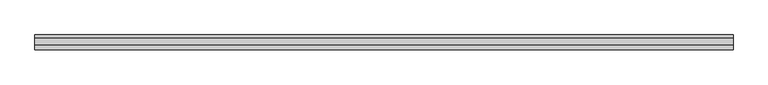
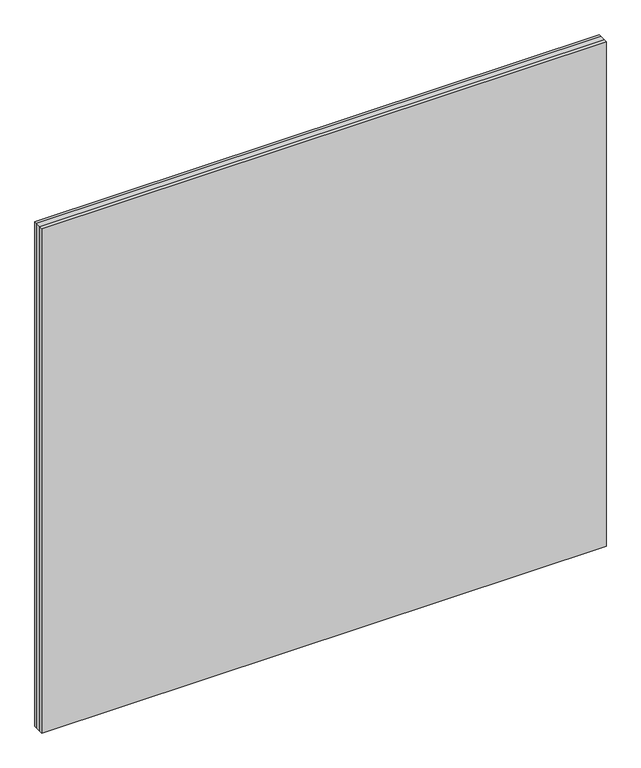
"""IFC4 building model written with IfcOpenShell, lengths in millimetres: plate geometry, 2014_Panel-Cristal-MC_SGG_COOL-LITE-SKN 054 : CLIMALIT PLUS con COOL LITE SKN 054 F2 6 (16 argon90%) 44.2 DIAMANT."""

from ifc_helpers import new_model, si_unit, frame, origin, place, context, project, spatial, polyline, outline, extrude, source, transform, mapped, element, save


def plate_7c9cb06b(model_context):
    return source(origin(), model_context, "Body", "SweptSolid", [
        extrude(outline(polyline([(730.0, 32.4), (730.0, 26.4), (-730.0, 26.4), (-730.0, 32.4), (730.0, 32.4)])), frame((0.0, 0.0, -20.0), z_axis=(0.0, 0.0, 1.0), x_axis=(1.0, 0.0, 0.0)), (0.0, 0.0, 1.0), 1380.0),
        extrude(outline(polyline([(-730.0, 10.4), (730.0, 10.4), (730.0, 1.6), (-730.0, 1.6), (-730.0, 10.4)])), frame((0.0, 0.0, -20.0), z_axis=(0.0, 0.0, 1.0), x_axis=(1.0, 0.0, 0.0)), (0.0, 0.0, 1.0), 1380.0),
        extrude(outline(polyline([(1360.0, -730.0), (-20.0, -730.0), (-20.0, 730.0), (1360.0, 730.0), (1360.0, -730.0)]), holes=[polyline([(1345.0, 715.0), (-5.0, 715.0), (-5.0, -715.0), (1345.0, -715.0), (1345.0, 715.0)])]), frame((0.0, 10.4, 0.0), z_axis=(0.0, 1.0, 0.0), x_axis=(0.0, 0.0, 1.0)), (0.0, 0.0, 1.0), 16.0),
    ])


if __name__ == "__main__":
    model = new_model("IFC4")
    model_context = context("Model", 3, world=origin())
    ifc_project = project(units=[si_unit("LENGTHUNIT", "METRE", prefix="MILLI")], contexts=[model_context])
    site = spatial("IfcSite", under=ifc_project)
    building = spatial("IfcBuilding", under=site)
    placement = place(None, origin())
    plate_shape = plate_7c9cb06b(model_context)
    element("IfcPlate", 1, ObjectType="2014_Panel-Cristal-MC_SGG_COOL-LITE-SKN 054 : CLIMALIT PLUS con COOL LITE SKN 054 F2 6 (16 argon90%) 44.2 DIAMANT", at=placement, inside=building, context=model_context, shape_type="MappedRepresentation", body=[
        mapped(plate_shape, transform((0.0, 0.0, 0.0), x_axis=(1.0, 0.0, 0.0), y_axis=(0.0, 1.0, 0.0), z_axis=(0.0, 0.0, 1.0))),
    ])
    save(model, "model.ifc")
